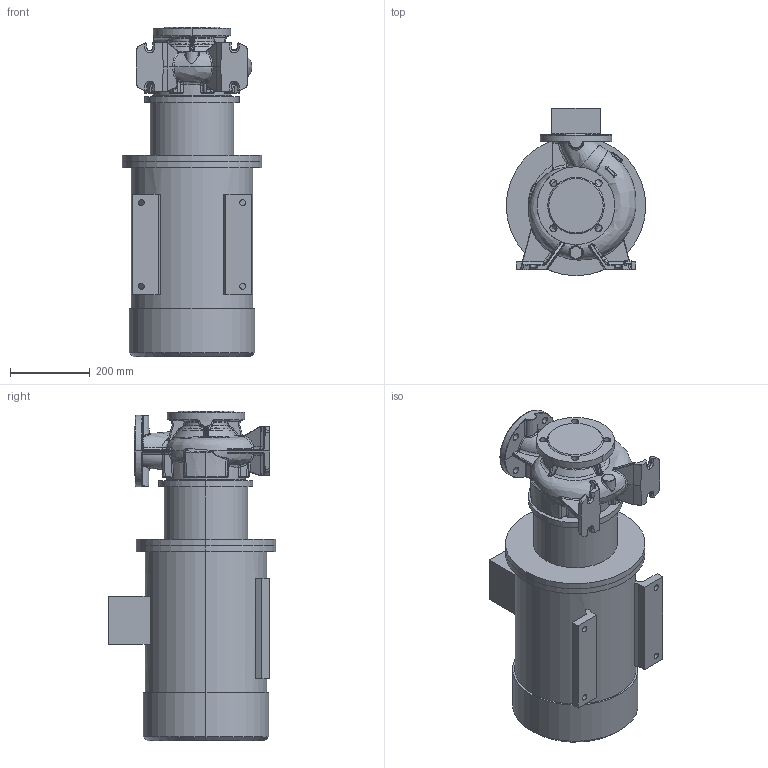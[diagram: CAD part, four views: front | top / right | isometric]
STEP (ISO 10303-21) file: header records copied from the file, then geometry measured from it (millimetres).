
FILE_DESCRIPTION (( 'STEP AP203' ), '1' );
FILE_NAME ('KRM 80-65-125-2-11.STEP', '2026-05-07T12:28:23', ( '' ), ( '' ), 'SwSTEP 2.0', 'SolidWorks 2016', '' );
FILE_SCHEMA (( 'CONFIG_CONTROL_DESIGN' ));
Length unit declared in the file: millimetre
Products named in the file (1): KRM 80-65-125-2-11
Bounding box: 350 x 420 x 827.3 mm (x, y, z)
Volume: 53719315.4 mm3; surface area: 1644172.6 mm2
Topology: 4 solids, 4 shells, 1009 faces, 2411 edges, 1414 vertices
Faces by surface type: bspline 488, cylinder 225, plane 159, cone 67, torus 63, sphere 7
Entity records: 58604 total; most frequent: CARTESIAN_POINT 39113, ORIENTED_EDGE 4782, DIRECTION 3151, EDGE_CURVE 2391, VERTEX_POINT 1414, AXIS2_PLACEMENT_3D 1331, EDGE_LOOP 1057, ADVANCED_FACE 1009
